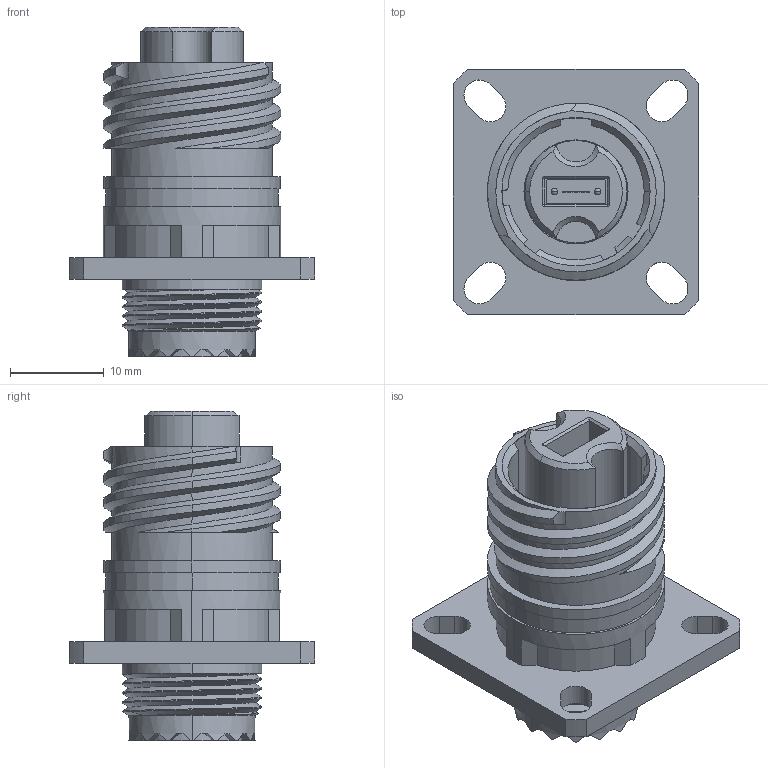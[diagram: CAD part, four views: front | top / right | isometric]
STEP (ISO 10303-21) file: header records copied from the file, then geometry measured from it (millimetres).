
FILE_DESCRIPTION (( 'STEP AP214' ), '1' );
FILE_NAME ('Q38MT-RFX-11XX-X-RA.STEP', '2025-12-18T16:55:37', ( '' ), ( '' ), 'SwSTEP 2.0', 'SolidWorks 2024', '' );
FILE_SCHEMA (( 'AUTOMOTIVE_DESIGN' ));
Length unit declared in the file: millimetre
Products named in the file (1): Q38MT-RFX-11XX-X-RA
Bounding box: 26.16 x 26.16 x 35.18 mm (x, y, z)
Volume: 6790.1 mm3; surface area: 5621.6 mm2
Topology: 1 solids, 1 shells, 314 faces, 834 edges, 549 vertices
Faces by surface type: plane 156, cylinder 132, cone 14, bspline 8, sphere 4
Entity records: 11313 total; most frequent: CARTESIAN_POINT 3622, ORIENTED_EDGE 1660, DIRECTION 1612, EDGE_CURVE 830, AXIS2_PLACEMENT_3D 634, VERTEX_POINT 549, EDGE_LOOP 353, LINE 344
